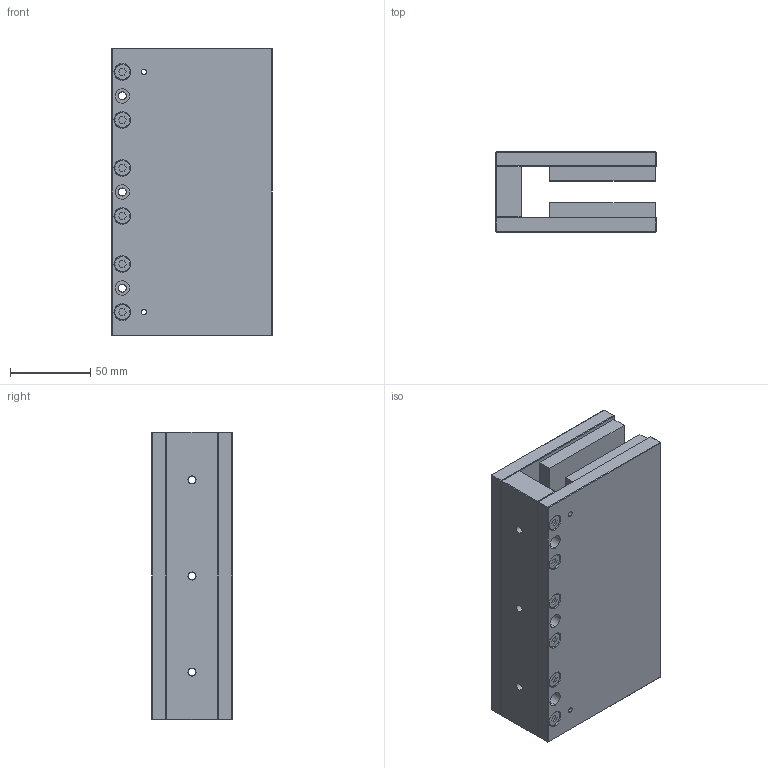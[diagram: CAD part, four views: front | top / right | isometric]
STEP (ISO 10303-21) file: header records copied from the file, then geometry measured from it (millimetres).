
FILE_DESCRIPTION (( 'STEP AP203' ), '1' );
FILE_NAME ('DX65F-TL180.step', '2021-01-04T11:02:19', ( '' ), ( '' ), 'SwSTEP 2.0', 'SolidWorks 2020', '' );
FILE_SCHEMA (( 'CONFIG_CONTROL_DESIGN' ));
Length unit declared in the file: millimetre
Products named in the file (1): DX65F-TL180
Bounding box: 100 x 50 x 179.5 mm (x, y, z)
Volume: 611795.8 mm3; surface area: 108242.5 mm2
Topology: 1 solids, 19 shells, 412 faces, 874 edges, 538 vertices
Faces by surface type: plane 236, cylinder 152, torus 24
Entity records: 11115 total; most frequent: DIRECTION 2016, CARTESIAN_POINT 1861, ORIENTED_EDGE 1748, EDGE_CURVE 874, AXIS2_PLACEMENT_3D 741, VERTEX_POINT 538, LINE 534, VECTOR 534
